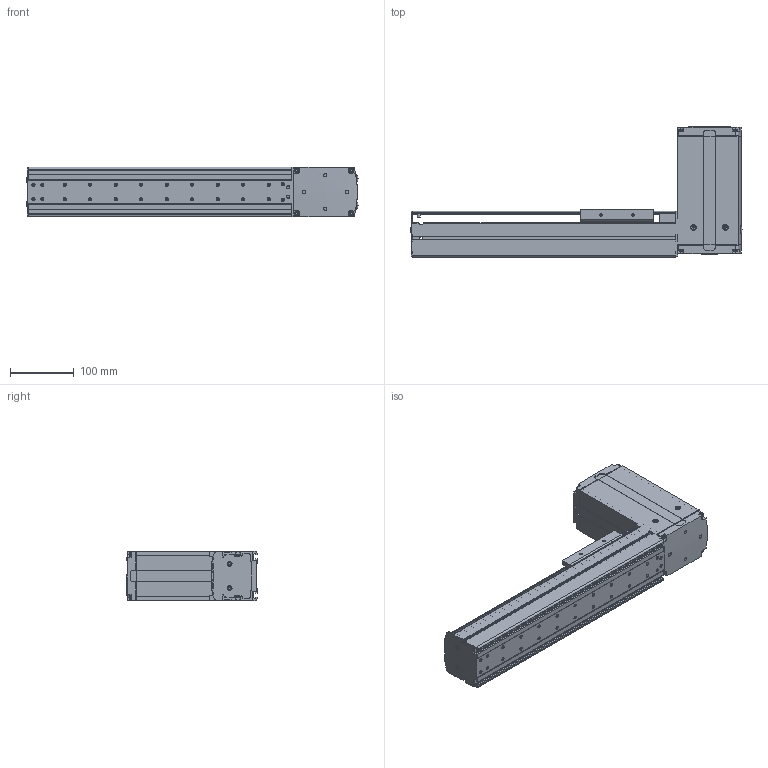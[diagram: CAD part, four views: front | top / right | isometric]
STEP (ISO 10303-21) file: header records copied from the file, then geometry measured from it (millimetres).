
FILE_DESCRIPTION((''),'2;1');
FILE_NAME('BE10_-BT-M_N-20_IGS_PRT','2017-06-18T',(' '),(''),'PRO/ENGINEER BY PARAMETRIC TECHNOLOGY CORPORATION, 2015030','PRO/ENGINEER BY PARAMETRIC TECHNOLOGY CORPORATION, 2015030','');
FILE_SCHEMA(('CONFIG_CONTROL_DESIGN'));
Products named in the file (1): BE10_-BT-M_N-20_IGS_PRT
Bounding box: 520.8 x 205 x 78 mm (x, y, z)
Volume: 845930.9 mm3; surface area: 590577.2 mm2
Topology: 3 solids, 112 shells, 1953 faces, 5323 edges, 3483 vertices
Faces by surface type: plane 964, cylinder 818, cone 111, sphere 30, torus 27, bspline 3
Entity records: 63252 total; most frequent: CARTESIAN_POINT 12910, DIRECTION 10659, ORIENTED_EDGE 10162, EDGE_CURVE 5261, AXIS2_PLACEMENT_3D 3762, VERTEX_POINT 3483, VECTOR 3135, LINE 3135
